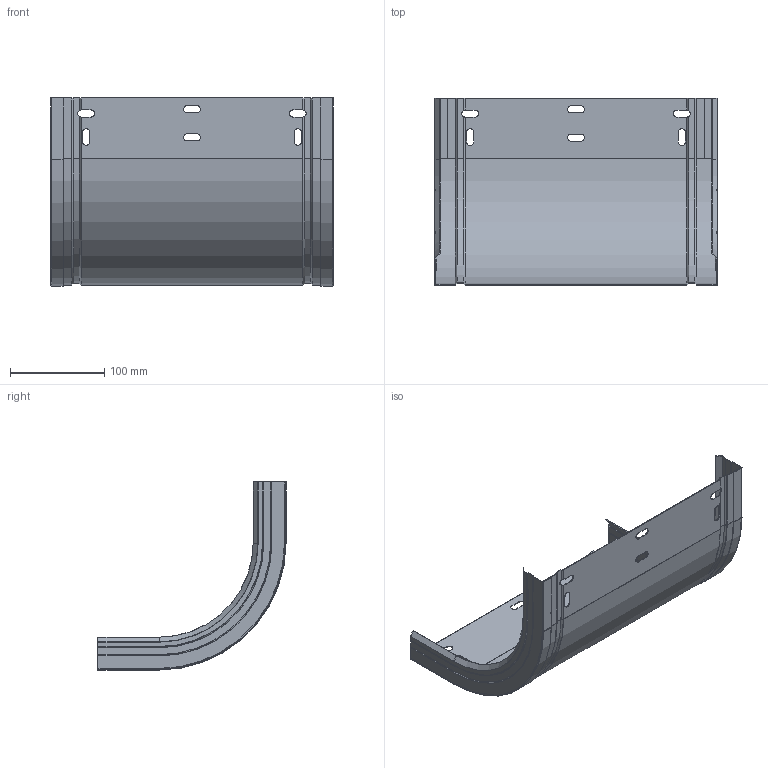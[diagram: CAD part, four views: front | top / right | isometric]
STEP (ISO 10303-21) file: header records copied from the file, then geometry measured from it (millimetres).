
FILE_DESCRIPTION (( 'STEP AP203' ), '1' );
FILE_NAME ('ERE_CONCAVA 300x35.step', '2023-07-27T18:53:28', ( '' ), ( '' ), 'SwSTEP 2.0', 'SolidWorks 2022', '' );
FILE_SCHEMA (( 'CONFIG_CONTROL_DESIGN' ));
Length unit declared in the file: millimetre
Products named in the file (3): ERE_CONCAVA 300x35; ERE_LATERAL CC_35; ERE_BASE CC_300x35
Assembly tree (3 placements, depth 2):
  ERE_CONCAVA 300x35
    ERE_BASE CC_300x35
    ERE_LATERAL CC_35  x2
Bounding box: 300 x 200 x 200 mm (x, y, z)
Volume: 105947 mm3; surface area: 267491.4 mm2
Topology: 3 solids, 3 shells, 216 faces, 582 edges, 364 vertices
Faces by surface type: plane 138, cylinder 52, cone 22, torus 4
Entity records: 5671 total; most frequent: CARTESIAN_POINT 978, ORIENTED_EDGE 928, DIRECTION 910, EDGE_CURVE 464, VECTOR 334, LINE 334, VERTEX_POINT 292, AXIS2_PLACEMENT_3D 288
